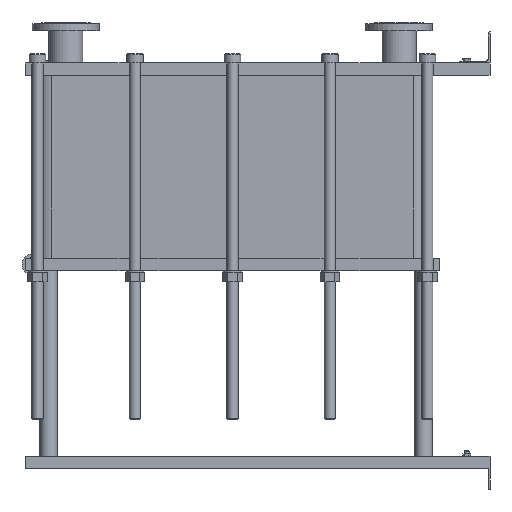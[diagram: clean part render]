
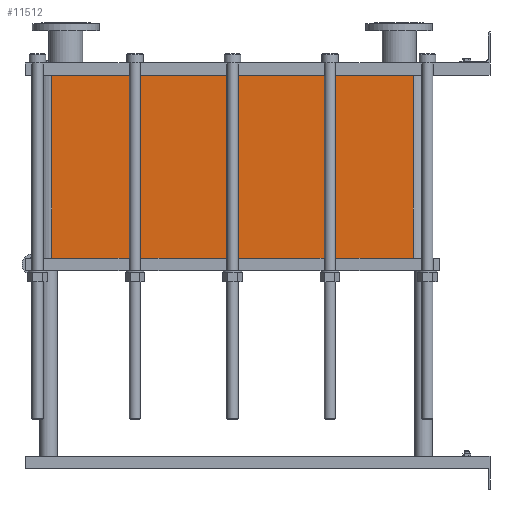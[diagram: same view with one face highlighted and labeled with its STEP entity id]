
A CAD part, left-side view. The second image highlights one B-rep face of the part: STEP entity #11512.
In plain terms, the highlighted planar face has unit normal (-1, 0, 0).
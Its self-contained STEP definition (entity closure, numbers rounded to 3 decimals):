
#1129=LINE('',#23232,#2102);
#1130=LINE('',#23236,#2103);
#1131=LINE('',#23238,#2104);
#1132=LINE('',#23239,#2105);
#2102=VECTOR('',#15887,10.);
#2103=VECTOR('',#15892,10.);
#2104=VECTOR('',#15893,10.);
#2105=VECTOR('',#15894,10.);
#3267=FACE_OUTER_BOUND('',#4093,.T.);
#4093=EDGE_LOOP('',(#10103,#10104,#10105,#10106));
#5642=VERTEX_POINT('',#23229);
#5643=VERTEX_POINT('',#23231);
#5644=VERTEX_POINT('',#23235);
#5645=VERTEX_POINT('',#23237);
#7159=EDGE_CURVE('',#5643,#5642,#1129,.T.);
#7161=EDGE_CURVE('',#5642,#5644,#1130,.T.);
#7162=EDGE_CURVE('',#5645,#5644,#1131,.T.);
#7163=EDGE_CURVE('',#5645,#5643,#1132,.T.);
#10103=ORIENTED_EDGE('',*,*,#7161,.T.);
#10104=ORIENTED_EDGE('',*,*,#7162,.F.);
#10105=ORIENTED_EDGE('',*,*,#7163,.T.);
#10106=ORIENTED_EDGE('',*,*,#7159,.T.);
#10857=PLANE('',#12751);
#11512=ADVANCED_FACE('',(#3267),#10857,.T.);
#12751=AXIS2_PLACEMENT_3D('',#23234,#15890,#15891);
#15887=DIRECTION('',(0.,0.,-1.));
#15890=DIRECTION('center_axis',(-1.,0.,0.));
#15891=DIRECTION('ref_axis',(0.,1.,0.));
#15892=DIRECTION('',(0.,-1.,0.));
#15893=DIRECTION('',(0.,0.,-1.));
#15894=DIRECTION('',(0.,1.,0.));
#23229=CARTESIAN_POINT('',(-200.,1414.,-589.95));
#23231=CARTESIAN_POINT('',(-200.,1414.,0.));
#23232=CARTESIAN_POINT('',(-200.,1414.,0.));
#23234=CARTESIAN_POINT('Origin',(-200.,248.,0.));
#23235=CARTESIAN_POINT('',(-200.,248.,-589.95));
#23236=CARTESIAN_POINT('',(-200.,539.5,-589.95));
#23237=CARTESIAN_POINT('',(-200.,248.,0.));
#23238=CARTESIAN_POINT('',(-200.,248.,0.));
#23239=CARTESIAN_POINT('',(-200.,248.,0.));
